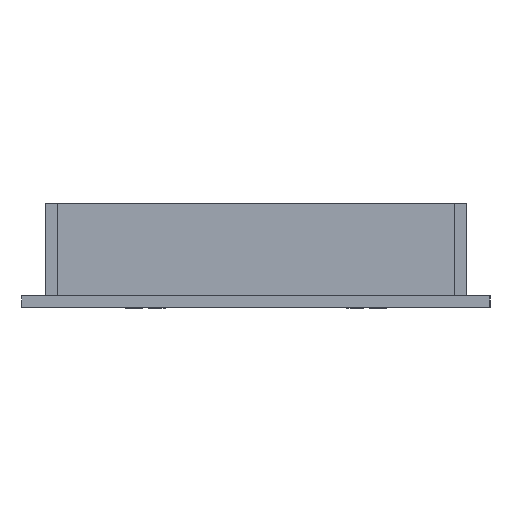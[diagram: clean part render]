
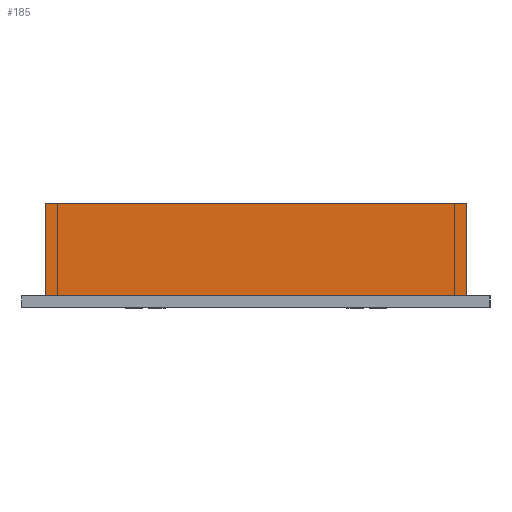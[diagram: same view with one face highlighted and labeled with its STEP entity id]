
A CAD part, left-side view. The second image highlights one B-rep face of the part: STEP entity #185.
In plain terms, the highlighted planar face has unit normal (-1, 0, 0).
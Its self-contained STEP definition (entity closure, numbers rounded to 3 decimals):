
#185=ADVANCED_FACE('',(#358),#2243,.T.);
#358=FACE_OUTER_BOUND('',#538,.T.);
#538=EDGE_LOOP('',(#1142,#1143,#1144,#1145));
#1142=ORIENTED_EDGE('',*,*,#1759,.T.);
#1143=ORIENTED_EDGE('',*,*,#1743,.T.);
#1144=ORIENTED_EDGE('',*,*,#1744,.F.);
#1145=ORIENTED_EDGE('',*,*,#1745,.F.);
#1743=EDGE_CURVE('',#2095,#2086,#2500,.T.);
#1744=EDGE_CURVE('',#2087,#2086,#2501,.T.);
#1745=EDGE_CURVE('',#2094,#2087,#2502,.T.);
#1759=EDGE_CURVE('',#2094,#2095,#2516,.T.);
#2086=VERTEX_POINT('',#6032);
#2087=VERTEX_POINT('',#6033);
#2094=VERTEX_POINT('',#6040);
#2095=VERTEX_POINT('',#6041);
#2243=PLANE('',#2971);
#2500=B_SPLINE_CURVE_WITH_KNOTS('',1,(#6116,#6117),.UNSPECIFIED.,.F.,.F.,
(2,2),(0.,25.),.UNSPECIFIED.);
#2501=B_SPLINE_CURVE_WITH_KNOTS('',1,(#6118,#6119),.UNSPECIFIED.,.F.,.F.,
(2,2),(-3248.564,-3134.564),.UNSPECIFIED.);
#2502=B_SPLINE_CURVE_WITH_KNOTS('',1,(#6120,#6121),.UNSPECIFIED.,.F.,.F.,
(2,2),(0.,25.),.UNSPECIFIED.);
#2516=B_SPLINE_CURVE_WITH_KNOTS('',1,(#6148,#6149),.UNSPECIFIED.,.F.,.F.,
(2,2),(-3248.564,-3134.564),.UNSPECIFIED.);
#2971=AXIS2_PLACEMENT_3D('',#5224,#3112,$);
#3112=DIRECTION('',(-1.,0.,0.));
#5224=CARTESIAN_POINT('',(6.5,120.5,3.));
#6032=CARTESIAN_POINT('',(6.5,6.5,28.));
#6033=CARTESIAN_POINT('',(6.5,120.5,28.));
#6040=CARTESIAN_POINT('',(6.5,120.5,3.));
#6041=CARTESIAN_POINT('',(6.5,6.5,3.));
#6116=CARTESIAN_POINT('',(6.5,6.5,3.));
#6117=CARTESIAN_POINT('',(6.5,6.5,28.));
#6118=CARTESIAN_POINT('',(6.5,120.5,28.));
#6119=CARTESIAN_POINT('',(6.5,6.5,28.));
#6120=CARTESIAN_POINT('',(6.5,120.5,3.));
#6121=CARTESIAN_POINT('',(6.5,120.5,28.));
#6148=CARTESIAN_POINT('',(6.5,120.5,3.));
#6149=CARTESIAN_POINT('',(6.5,6.5,3.));
